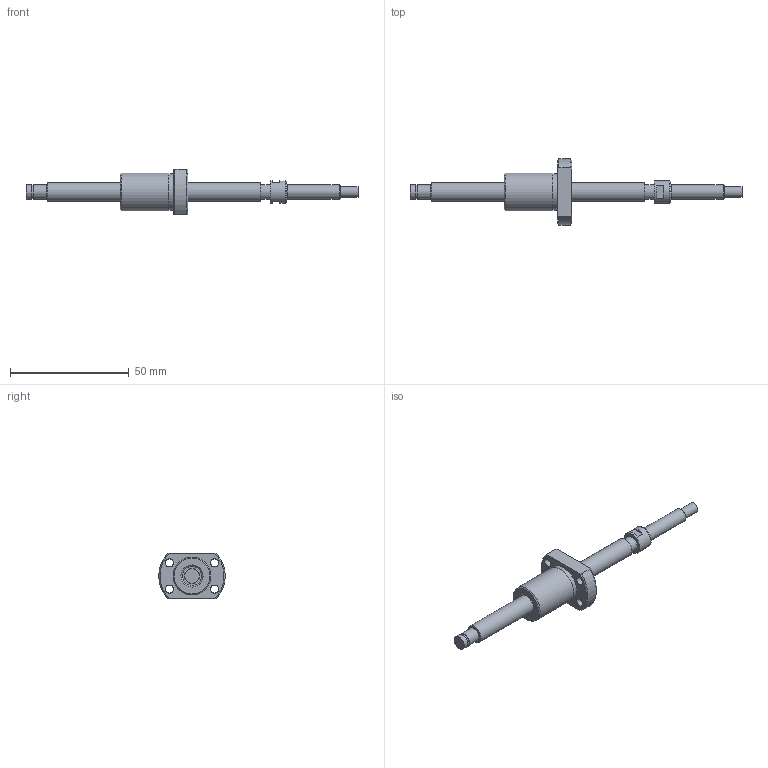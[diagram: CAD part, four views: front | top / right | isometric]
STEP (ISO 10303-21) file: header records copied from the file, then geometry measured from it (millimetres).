
FILE_DESCRIPTION(/* description */ ('STEP AP214'),/* implementation_level */ '2;1');
FILE_NAME(/* name */ 'NSGF0805Z-090R140C3-0-T-S-T-B-(30.75-S)',/* time_stamp */ '2026-08-24T20:12:18+02:00',/* author */ ('License CC BY-ND 4.0'),/* organization */ ('CADENAS'),/* preprocessor_version */ 'ST-DEVELOPER v20',/* originating_system */ 'PARTsolutions',/* authorisation */ ' ');
FILE_SCHEMA (('AUTOMOTIVE_DESIGN {1 0 10303 214 3 1 1}'));
Length unit declared in the file: millimetre
Products named in the file (3): NSGF0805Z-090R140C3-0-T-S-T-B-(30.75-S); NSG0805Z-90R14030.5_(T-S_T-B_2)-2; NSGF0805Z-1
Assembly tree (2 placements, depth 2):
  NSGF0805Z-090R140C3-0-T-S-T-B-(30.75-S)
    NSG0805Z-90R14030.5_(T-S_T-B_2)-2
    NSGF0805Z-1
Bounding box: 140 x 27.9 x 19 mm (x, y, z)
Volume: 11282 mm3; surface area: 6903.1 mm2
Topology: 2 solids, 2 shells, 50 faces, 100 edges, 66 vertices
Faces by surface type: plane 22, cylinder 18, cone 8, torus 2
Full cylindrical faces by diameter (mm): 3.4 x4, 4.5 x1, 5.7 x1, 6 x3, 6.3 x1, 8 x2, 9.5 x1, 15.5 x1, 16 x2
Entity records: 1275 total; most frequent: DIRECTION 222, CARTESIAN_POINT 213, ORIENTED_EDGE 148, AXIS2_PLACEMENT_3D 103, EDGE_LOOP 94, FACE_BOUND 94, EDGE_CURVE 74, VERTEX_POINT 62
